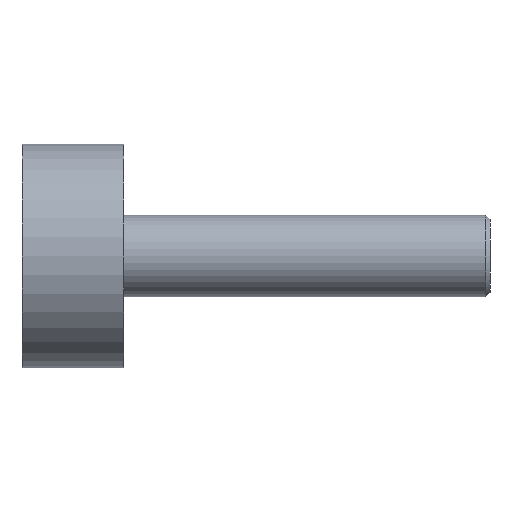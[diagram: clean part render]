
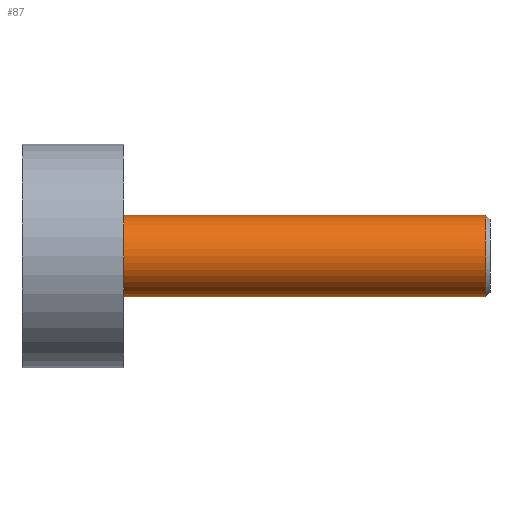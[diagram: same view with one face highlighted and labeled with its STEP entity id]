
A CAD part, front view. The second image highlights one B-rep face of the part: STEP entity #87.
In plain terms, the highlighted cylindrical face has radius 2 mm (diameter 4 mm), a full revolution.
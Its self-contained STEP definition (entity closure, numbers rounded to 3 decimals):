
#87 = ADVANCED_FACE( '', ( #153, #154 ), #155, .T. );
#153 = FACE_OUTER_BOUND( '', #254, .T. );
#154 = FACE_OUTER_BOUND( '', #255, .T. );
#155 = CYLINDRICAL_SURFACE( '', #256, 2. );
#254 = EDGE_LOOP( '', ( #433 ) );
#255 = EDGE_LOOP( '', ( #434 ) );
#256 = AXIS2_PLACEMENT_3D( '', #435, #436, #437 );
#433 = ORIENTED_EDGE( '', *, *, #735, .F. );
#434 = ORIENTED_EDGE( '', *, *, #736, .T. );
#435 = CARTESIAN_POINT( '', ( 18., 0., 0. ) );
#436 = DIRECTION( '', ( -1., 0., 0. ) );
#437 = DIRECTION( '', ( 0., 0., -1. ) );
#735 = EDGE_CURVE( '', #891, #891, #892, .T. );
#736 = EDGE_CURVE( '', #893, #893, #894, .T. );
#891 = VERTEX_POINT( '', #1106 );
#892 = CIRCLE( '', #1107, 2. );
#893 = VERTEX_POINT( '', #1108 );
#894 = CIRCLE( '', #1109, 2. );
#1106 = CARTESIAN_POINT( '', ( 17.786, 0., -2. ) );
#1107 = AXIS2_PLACEMENT_3D( '', #1338, #1339, #1340 );
#1108 = CARTESIAN_POINT( '', ( 0., 0., -2. ) );
#1109 = AXIS2_PLACEMENT_3D( '', #1341, #1342, #1343 );
#1338 = CARTESIAN_POINT( '', ( 17.786, 0., 0. ) );
#1339 = DIRECTION( '', ( 1., 0., 0. ) );
#1340 = DIRECTION( '', ( 0., 0., -1. ) );
#1341 = CARTESIAN_POINT( '', ( 0., 0., 0. ) );
#1342 = DIRECTION( '', ( 1., 0., 0. ) );
#1343 = DIRECTION( '', ( 0., 0., -1. ) );
